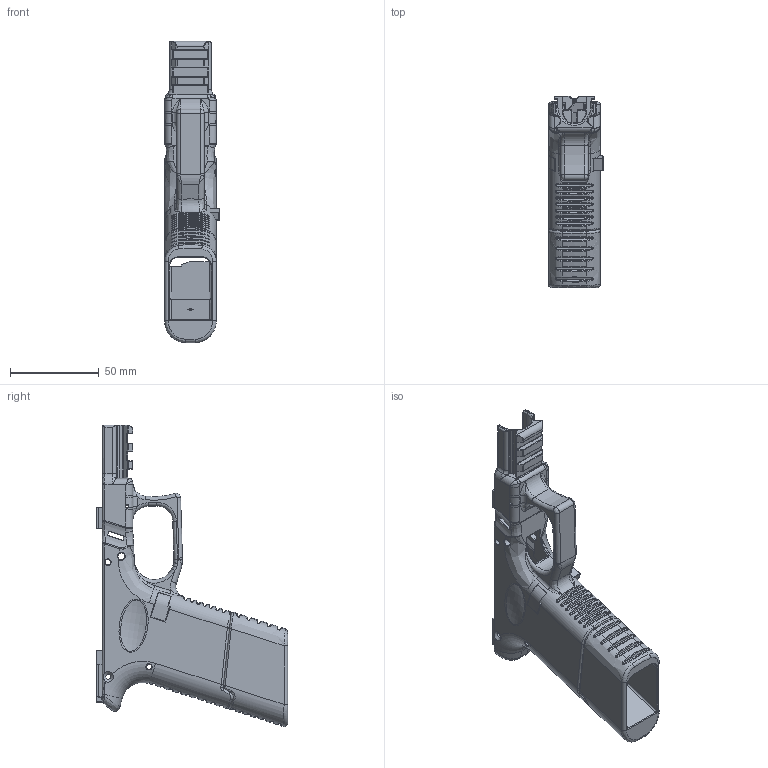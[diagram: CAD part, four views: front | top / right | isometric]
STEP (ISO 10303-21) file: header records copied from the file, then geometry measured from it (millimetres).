
FILE_DESCRIPTION(/* description */ (''),/* implementation_level */ '2;1');
FILE_NAME(/* name */ '/Users/tyler/Desktop/G26 DIY.step',/* time_stamp */ '2019-11-17T18:18:02-05:00',/* author */ (''),/* organization */ (''),/* preprocessor_version */ 'ST-DEVELOPER v18',/* originating_system */ 'Autodesk Translation Framework v8.12.0.6',/* authorisation */ '');
FILE_SCHEMA (('AUTOMOTIVE_DESIGN { 1 0 10303 214 3 1 1 }'));
Products named in the file (7): G26 DIY; Mag Catch v5; G17 Grip Extention; G26 Rear Rails; Component2; Component3; FRAME Make Your Own Rails Front Only Pin
Assembly tree (6 placements, depth 3):
  G26 DIY
    Mag Catch v5
    G17 Grip Extention
    G26 Rear Rails
      Component2
      Component3
    FRAME Make Your Own Rails Front Only Pin
Bounding box: 31.03 x 107.95 x 170.06 mm (x, y, z)
Volume: 96808.4 mm3; surface area: 52385.9 mm2
Topology: 6 solids, 6 shells, 1765 faces, 4278 edges, 2431 vertices
Faces by surface type: bspline 714, cylinder 507, plane 347, torus 120, sphere 56, cone 21
Full cylindrical faces by diameter (mm): 1.587 x2, 2.25 x1, 2.5 x1, 2.997 x2, 3 x4, 3.175 x2, 3.962 x2
Entity records: 85108 total; most frequent: CARTESIAN_POINT 47285, ORIENTED_EDGE 8400, DIRECTION 7099, EDGE_CURVE 4200, AXIS2_PLACEMENT_3D 2847, VERTEX_POINT 2431, EDGE_LOOP 1787, FACE_OUTER_BOUND 1762
